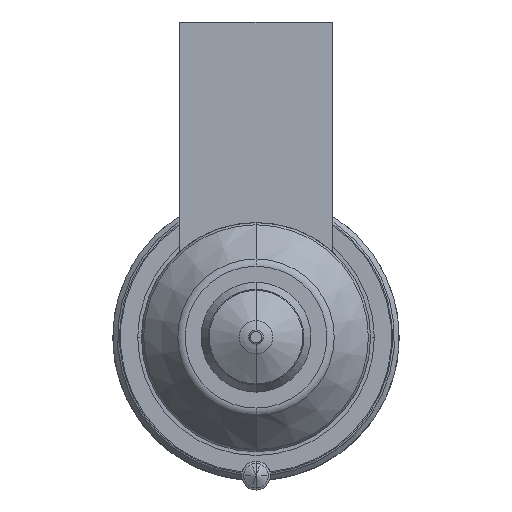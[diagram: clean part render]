
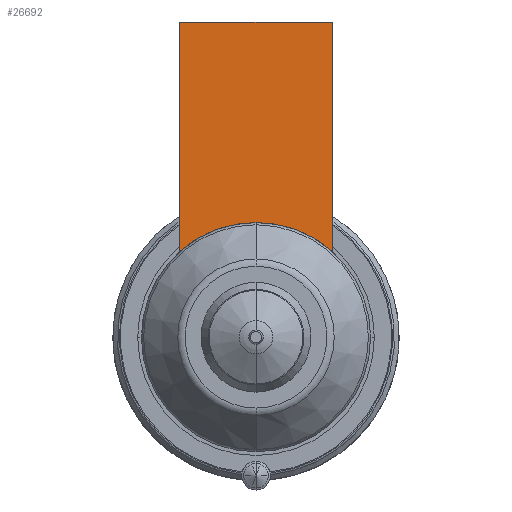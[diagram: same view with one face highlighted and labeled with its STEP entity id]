
A CAD part, front view. The second image highlights one B-rep face of the part: STEP entity #26692.
In plain terms, the highlighted planar face has unit normal (0, -1, 0).
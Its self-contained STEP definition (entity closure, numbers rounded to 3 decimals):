
#25772=DIRECTION('',(0.,0.,-1.));
#25773=VECTOR('',#25772,24.056);
#25774=CARTESIAN_POINT('',(-8.,-56.,33.));
#25775=LINE('',#25774,#25773);
#25812=DIRECTION('',(1.,0.,0.));
#25813=VECTOR('',#25812,16.);
#25814=CARTESIAN_POINT('',(-8.,-56.,33.));
#25815=LINE('',#25814,#25813);
#25819=CARTESIAN_POINT('',(0.,-56.,0.));
#25820=DIRECTION('',(0.,-1.,0.));
#25821=DIRECTION('',(0.667,0.,0.745));
#25822=AXIS2_PLACEMENT_3D('',#25819,#25820,#25821);
#25827=CARTESIAN_POINT('',(0.,-56.,0.));
#25828=DIRECTION('',(0.,-1.,0.));
#25829=DIRECTION('',(0.,0.,1.));
#25830=AXIS2_PLACEMENT_3D('',#25827,#25828,#25829);
#25863=DIRECTION('',(0.,0.,-1.));
#25864=VECTOR('',#25863,24.056);
#25865=CARTESIAN_POINT('',(8.,-56.,33.));
#25866=LINE('',#25865,#25864);
#26528=CARTESIAN_POINT('',(-8.,-56.,33.));
#26529=VERTEX_POINT('',#26528);
#26534=CARTESIAN_POINT('',(8.,-56.,33.));
#26535=VERTEX_POINT('',#26534);
#26538=CARTESIAN_POINT('',(-8.,-56.,8.944));
#26539=VERTEX_POINT('',#26538);
#26542=CARTESIAN_POINT('',(8.,-56.,8.944));
#26543=VERTEX_POINT('',#26542);
#26611=CARTESIAN_POINT('',(0.,-56.,12.));
#26612=VERTEX_POINT('',#26611);
#26677=CARTESIAN_POINT('',(-8.,-56.,33.));
#26678=DIRECTION('',(0.,-1.,0.));
#26679=DIRECTION('',(0.,0.,-1.));
#26680=AXIS2_PLACEMENT_3D('',#26677,#26678,#26679);
#26681=PLANE('',#26680);
#26682=ORIENTED_EDGE('',*,*,#26625,.F.);
#26684=ORIENTED_EDGE('',*,*,#26683,.T.);
#26686=ORIENTED_EDGE('',*,*,#26685,.T.);
#26688=ORIENTED_EDGE('',*,*,#26687,.T.);
#26689=ORIENTED_EDGE('',*,*,#26657,.T.);
#26690=EDGE_LOOP('',(#26682,#26684,#26686,#26688,#26689));
#26691=FACE_OUTER_BOUND('',#26690,.F.);
#26692=ADVANCED_FACE('',(#26691),#26681,.T.);
#25823=CIRCLE('',#25822,12.);
#25831=CIRCLE('',#25830,12.);
#26625=EDGE_CURVE('',#26529,#26539,#25775,.T.);
#26657=EDGE_CURVE('',#26612,#26539,#25831,.T.);
#26683=EDGE_CURVE('',#26529,#26535,#25815,.T.);
#26685=EDGE_CURVE('',#26535,#26543,#25866,.T.);
#26687=EDGE_CURVE('',#26543,#26612,#25823,.T.);
